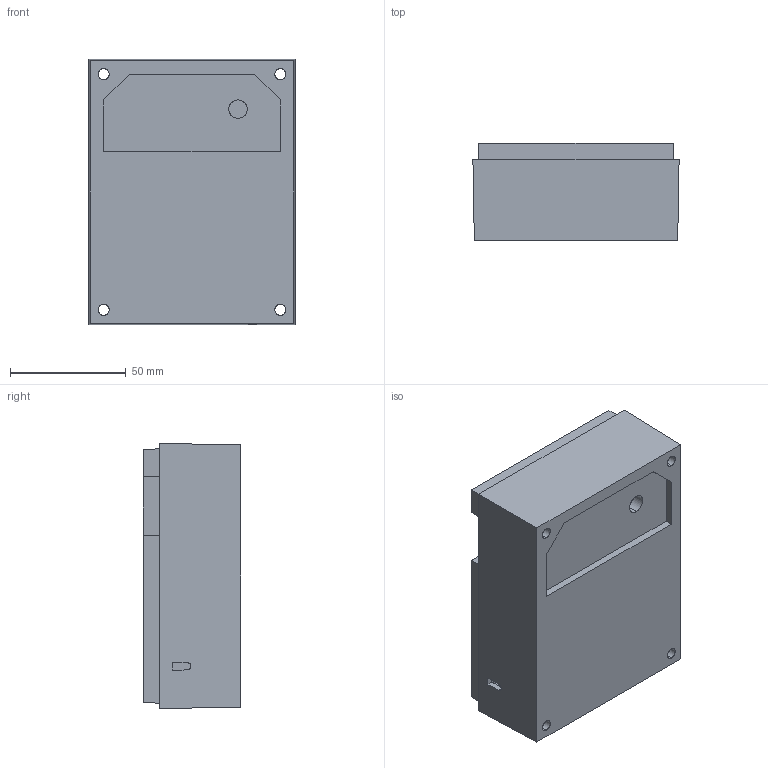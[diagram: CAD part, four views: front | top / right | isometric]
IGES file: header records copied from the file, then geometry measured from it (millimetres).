
Start section: SolidWorks IGES file using analytic representation for surfaces
Global section: file name: S:\Engineering Projects\VOICE #304 FILES\90296.IGS; native system: SolidWorks 2013; preprocessor: SolidWorks 2013; author: Davef; date: 140310.154940; units: inch
Bounding box: 88.9 x 41.91 x 114.3 mm (x, y, z)
Surface area: 78627.8 mm2 (no closed solid volume)
Topology: 0 solids, 0 shells, 353 faces, 4583 edges, 4583 vertices
Faces by surface type: bspline 328, revolution 25
